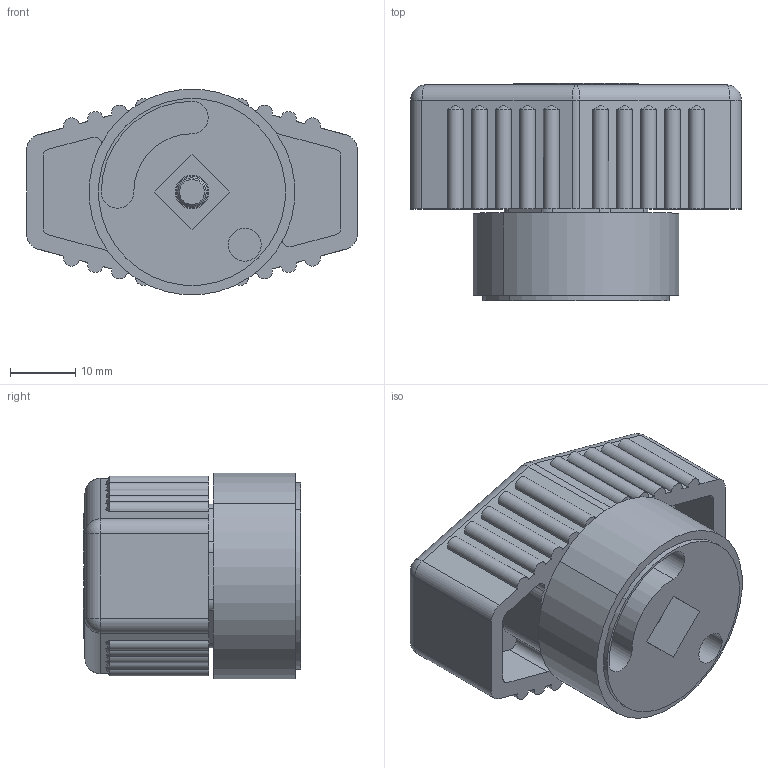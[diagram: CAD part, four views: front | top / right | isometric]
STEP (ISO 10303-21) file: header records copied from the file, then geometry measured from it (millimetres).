
FILE_DESCRIPTION((''),'2;1');
FILE_NAME('ILC62700408_SHORT','2013-06-19T',('jdw'),(''),'PRO/ENGINEER BY PARAMETRIC TECHNOLOGY CORPORATION, 2007460','PRO/ENGINEER BY PARAMETRIC TECHNOLOGY CORPORATION, 2007460','');
FILE_SCHEMA(('AUTOMOTIVE_DESIGN_CC2 { 1 2 10303 214 -1 1 5 2 }'));
Length unit declared in the file: inch
Products named in the file (1): ILC62700408_SHORT
Bounding box: 50.8 x 33.4 x 31.5 mm (x, y, z)
Volume: 28838.1 mm3; surface area: 11848 mm2
Topology: 1 solids, 3 shells, 318 faces, 880 edges, 574 vertices
Faces by surface type: plane 200, cylinder 86, cone 26, sphere 6
Entity records: 12834 total; most frequent: CARTESIAN_POINT 1753, ORIENTED_EDGE 1710, DIRECTION 1682, PRESENTATION_STYLE_ASSIGNMENT 875, STYLED_ITEM 863, CURVE_STYLE 860, EDGE_CURVE 860, VECTOR 676
